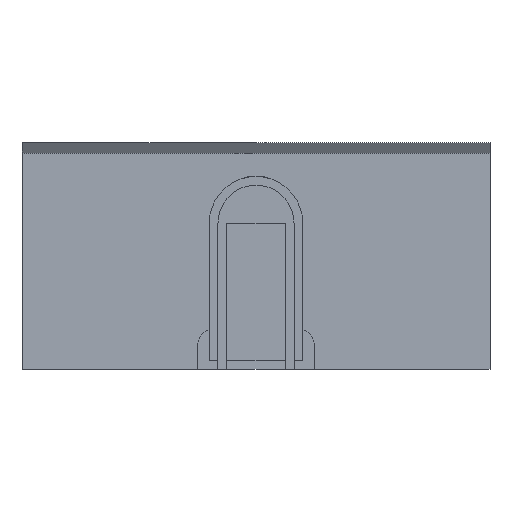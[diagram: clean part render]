
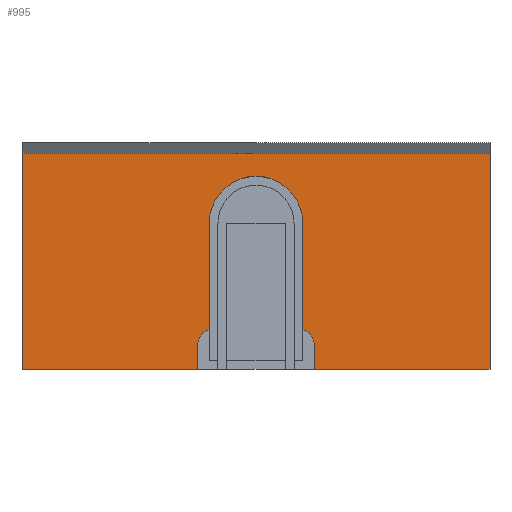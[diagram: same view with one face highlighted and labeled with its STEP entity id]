
A CAD part, front view. The second image highlights one B-rep face of the part: STEP entity #995.
In plain terms, the highlighted planar face has unit normal (0, -1, 0).
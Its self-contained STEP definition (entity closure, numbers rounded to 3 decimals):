
#36 = CARTESIAN_POINT ( 'NONE',  ( -400., 0., 370. ) ) ;
#51 = ORIENTED_EDGE ( 'NONE', *, *, #1398, .F. ) ;
#76 = CARTESIAN_POINT ( 'NONE',  ( -100., 0., 0. ) ) ;
#79 = EDGE_CURVE ( 'NONE', #2997, #2473, #2009, .T. ) ;
#106 = CIRCLE ( 'NONE', #1806, 30. ) ;
#114 = VECTOR ( 'NONE', #1103, 1000. ) ;
#118 = CARTESIAN_POINT ( 'NONE',  ( 100., 0., 0. ) ) ;
#143 = EDGE_CURVE ( 'NONE', #336, #1889, #2741, .T. ) ;
#162 = AXIS2_PLACEMENT_3D ( 'NONE', #357, #2381, #2690 ) ;
#201 = DIRECTION ( 'NONE',  ( 0., 0., -1. ) ) ;
#207 = ORIENTED_EDGE ( 'NONE', *, *, #2709, .F. ) ;
#220 = EDGE_CURVE ( 'NONE', #288, #1647, #1983, .T. ) ;
#222 = CARTESIAN_POINT ( 'NONE',  ( 10., 0., 100. ) ) ;
#236 = LINE ( 'NONE', #266, #488 ) ;
#238 = CARTESIAN_POINT ( 'NONE',  ( 40., 0., 130. ) ) ;
#266 = CARTESIAN_POINT ( 'NONE',  ( 400., 0., 0. ) ) ;
#281 = VECTOR ( 'NONE', #201, 1000. ) ;
#288 = VERTEX_POINT ( 'NONE', #3062 ) ;
#302 = EDGE_CURVE ( 'NONE', #1889, #2672, #236, .T. ) ;
#319 = CARTESIAN_POINT ( 'NONE',  ( 0., 0., 0. ) ) ;
#330 = VECTOR ( 'NONE', #2056, 1000. ) ;
#336 = VERTEX_POINT ( 'NONE', #36 ) ;
#341 = DIRECTION ( 'NONE',  ( 0., 1., 0. ) ) ;
#345 = ORIENTED_EDGE ( 'NONE', *, *, #2022, .T. ) ;
#349 = CARTESIAN_POINT ( 'NONE',  ( -400., 0., 0. ) ) ;
#357 = CARTESIAN_POINT ( 'NONE',  ( -10., 0., 300. ) ) ;
#409 = DIRECTION ( 'NONE',  ( 0., 1., 0. ) ) ;
#417 = VECTOR ( 'NONE', #1080, 1000. ) ;
#438 = CARTESIAN_POINT ( 'NONE',  ( 70., 0., 70. ) ) ;
#452 = CARTESIAN_POINT ( 'NONE',  ( 10., 0., 130. ) ) ;
#468 = LINE ( 'NONE', #1494, #281 ) ;
#488 = VECTOR ( 'NONE', #2794, 1000. ) ;
#593 = AXIS2_PLACEMENT_3D ( 'NONE', #452, #409, #1455 ) ;
#597 = VECTOR ( 'NONE', #2571, 1000. ) ;
#620 = CARTESIAN_POINT ( 'NONE',  ( -10., 0., 130. ) ) ;
#632 = LINE ( 'NONE', #349, #114 ) ;
#658 = DIRECTION ( 'NONE',  ( 0., 1., 0. ) ) ;
#672 = ORIENTED_EDGE ( 'NONE', *, *, #3026, .F. ) ;
#683 = EDGE_CURVE ( 'NONE', #1323, #1045, #1483, .T. ) ;
#693 = CIRCLE ( 'NONE', #1956, 30. ) ;
#731 = ORIENTED_EDGE ( 'NONE', *, *, #2987, .F. ) ;
#799 = LINE ( 'NONE', #1814, #417 ) ;
#873 = ORIENTED_EDGE ( 'NONE', *, *, #1250, .T. ) ;
#898 = AXIS2_PLACEMENT_3D ( 'NONE', #319, #1545, #1573 ) ;
#951 = VERTEX_POINT ( 'NONE', #2618 ) ;
#978 = ORIENTED_EDGE ( 'NONE', *, *, #220, .T. ) ;
#995 = ADVANCED_FACE ( 'NONE', ( #1346, #3127 ), #2610, .F. ) ;
#1005 = CARTESIAN_POINT ( 'NONE',  ( -40., 0., 330. ) ) ;
#1036 = CARTESIAN_POINT ( 'NONE',  ( 400., 0., 0. ) ) ;
#1045 = VERTEX_POINT ( 'NONE', #1828 ) ;
#1048 = LINE ( 'NONE', #2103, #330 ) ;
#1080 = DIRECTION ( 'NONE',  ( 0., 0., 1. ) ) ;
#1087 = EDGE_CURVE ( 'NONE', #2997, #1722, #799, .T. ) ;
#1103 = DIRECTION ( 'NONE',  ( -1., 0., 0. ) ) ;
#1167 = VERTEX_POINT ( 'NONE', #1405 ) ;
#1186 = DIRECTION ( 'NONE',  ( 1., 0., 0. ) ) ;
#1250 = EDGE_CURVE ( 'NONE', #1544, #1045, #1688, .T. ) ;
#1258 = ORIENTED_EDGE ( 'NONE', *, *, #1599, .T. ) ;
#1323 = VERTEX_POINT ( 'NONE', #2413 ) ;
#1331 = CARTESIAN_POINT ( 'NONE',  ( 70., 0., 40. ) ) ;
#1345 = ORIENTED_EDGE ( 'NONE', *, *, #3274, .F. ) ;
#1346 = FACE_BOUND ( 'NONE', #2774, .T. ) ;
#1351 = ORIENTED_EDGE ( 'NONE', *, *, #79, .T. ) ;
#1361 = DIRECTION ( 'NONE',  ( 0., 0., 1. ) ) ;
#1374 = VECTOR ( 'NONE', #1186, 1000. ) ;
#1396 = CARTESIAN_POINT ( 'NONE',  ( -400., 0., 370. ) ) ;
#1398 = EDGE_CURVE ( 'NONE', #2527, #2473, #1938, .T. ) ;
#1405 = CARTESIAN_POINT ( 'NONE',  ( -100., 0., 0. ) ) ;
#1455 = DIRECTION ( 'NONE',  ( 0., 0., 1. ) ) ;
#1459 = CARTESIAN_POINT ( 'NONE',  ( 40., 0., 300. ) ) ;
#1464 = VERTEX_POINT ( 'NONE', #2816 ) ;
#1483 = LINE ( 'NONE', #1005, #2442 ) ;
#1494 = CARTESIAN_POINT ( 'NONE',  ( -40., 0., 100. ) ) ;
#1525 = VERTEX_POINT ( 'NONE', #1748 ) ;
#1544 = VERTEX_POINT ( 'NONE', #3069 ) ;
#1545 = DIRECTION ( 'NONE',  ( 0., 1., 0. ) ) ;
#1547 = CARTESIAN_POINT ( 'NONE',  ( 100., 0., 70. ) ) ;
#1573 = DIRECTION ( 'NONE',  ( 0., 0., 1. ) ) ;
#1579 = EDGE_CURVE ( 'NONE', #1835, #288, #693, .T. ) ;
#1599 = EDGE_CURVE ( 'NONE', #1167, #3238, #2839, .T. ) ;
#1622 = CARTESIAN_POINT ( 'NONE',  ( -70., 0., 40. ) ) ;
#1647 = VERTEX_POINT ( 'NONE', #118 ) ;
#1685 = DIRECTION ( 'NONE',  ( 0., 1., 0. ) ) ;
#1688 = CIRCLE ( 'NONE', #162, 30. ) ;
#1692 = CARTESIAN_POINT ( 'NONE',  ( -40., 0., 100. ) ) ;
#1706 = ORIENTED_EDGE ( 'NONE', *, *, #683, .F. ) ;
#1722 = VERTEX_POINT ( 'NONE', #1459 ) ;
#1725 = EDGE_LOOP ( 'NONE', ( #1258, #2343, #2460, #1921, #978, #731, #2458, #2186, #207, #1345 ) ) ;
#1748 = CARTESIAN_POINT ( 'NONE',  ( -70., 0., 70. ) ) ;
#1749 = VECTOR ( 'NONE', #1361, 1000. ) ;
#1753 = DIRECTION ( 'NONE',  ( -1., 0., 0. ) ) ;
#1764 = CARTESIAN_POINT ( 'NONE',  ( -400., 0., 0. ) ) ;
#1776 = DIRECTION ( 'NONE',  ( 0., 0., -1. ) ) ;
#1806 = AXIS2_PLACEMENT_3D ( 'NONE', #620, #2158, #2384 ) ;
#1810 = AXIS2_PLACEMENT_3D ( 'NONE', #1622, #1685, #2639 ) ;
#1814 = CARTESIAN_POINT ( 'NONE',  ( 40., 0., 100. ) ) ;
#1828 = CARTESIAN_POINT ( 'NONE',  ( -10., 0., 330. ) ) ;
#1835 = VERTEX_POINT ( 'NONE', #438 ) ;
#1842 = DIRECTION ( 'NONE',  ( 0., 0., 1. ) ) ;
#1862 = VECTOR ( 'NONE', #2277, 1000. ) ;
#1889 = VERTEX_POINT ( 'NONE', #3054 ) ;
#1912 = EDGE_CURVE ( 'NONE', #1525, #1835, #3066, .T. ) ;
#1921 = ORIENTED_EDGE ( 'NONE', *, *, #1579, .T. ) ;
#1938 = LINE ( 'NONE', #1692, #2601 ) ;
#1956 = AXIS2_PLACEMENT_3D ( 'NONE', #1331, #341, #1842 ) ;
#1983 = LINE ( 'NONE', #2019, #2650 ) ;
#2009 = CIRCLE ( 'NONE', #593, 30. ) ;
#2019 = CARTESIAN_POINT ( 'NONE',  ( 100., 0., 0. ) ) ;
#2022 = EDGE_CURVE ( 'NONE', #2527, #951, #106, .T. ) ;
#2029 = CARTESIAN_POINT ( 'NONE',  ( -10., 0., 100. ) ) ;
#2056 = DIRECTION ( 'NONE',  ( 0., 0., 1. ) ) ;
#2103 = CARTESIAN_POINT ( 'NONE',  ( -400., 0., 0. ) ) ;
#2123 = AXIS2_PLACEMENT_3D ( 'NONE', #2937, #658, #3169 ) ;
#2158 = DIRECTION ( 'NONE',  ( 0., 1., 0. ) ) ;
#2186 = ORIENTED_EDGE ( 'NONE', *, *, #143, .F. ) ;
#2277 = DIRECTION ( 'NONE',  ( -1., 0., 0. ) ) ;
#2343 = ORIENTED_EDGE ( 'NONE', *, *, #2830, .T. ) ;
#2381 = DIRECTION ( 'NONE',  ( 0., 1., 0. ) ) ;
#2384 = DIRECTION ( 'NONE',  ( 0., 0., 1. ) ) ;
#2413 = CARTESIAN_POINT ( 'NONE',  ( 10., 0., 330. ) ) ;
#2442 = VECTOR ( 'NONE', #1753, 1000. ) ;
#2458 = ORIENTED_EDGE ( 'NONE', *, *, #302, .F. ) ;
#2460 = ORIENTED_EDGE ( 'NONE', *, *, #1912, .T. ) ;
#2473 = VERTEX_POINT ( 'NONE', #222 ) ;
#2482 = DIRECTION ( 'NONE',  ( 1., 0., 0. ) ) ;
#2493 = LINE ( 'NONE', #1764, #1862 ) ;
#2504 = ORIENTED_EDGE ( 'NONE', *, *, #1087, .F. ) ;
#2527 = VERTEX_POINT ( 'NONE', #2029 ) ;
#2542 = EDGE_CURVE ( 'NONE', #1323, #1722, #2705, .T. ) ;
#2571 = DIRECTION ( 'NONE',  ( 1., 0., 0. ) ) ;
#2601 = VECTOR ( 'NONE', #2482, 1000. ) ;
#2610 = PLANE ( 'NONE',  #898 ) ;
#2618 = CARTESIAN_POINT ( 'NONE',  ( -40., 0., 130. ) ) ;
#2639 = DIRECTION ( 'NONE',  ( 0., 0., 1. ) ) ;
#2650 = VECTOR ( 'NONE', #1776, 1000. ) ;
#2672 = VERTEX_POINT ( 'NONE', #1036 ) ;
#2690 = DIRECTION ( 'NONE',  ( 0., 0., 1. ) ) ;
#2705 = CIRCLE ( 'NONE', #2123, 30. ) ;
#2709 = EDGE_CURVE ( 'NONE', #1464, #336, #1048, .T. ) ;
#2741 = LINE ( 'NONE', #1396, #1374 ) ;
#2774 = EDGE_LOOP ( 'NONE', ( #51, #345, #672, #873, #1706, #3211, #2504, #1351 ) ) ;
#2794 = DIRECTION ( 'NONE',  ( 0., 0., -1. ) ) ;
#2816 = CARTESIAN_POINT ( 'NONE',  ( -400., 0., 0. ) ) ;
#2830 = EDGE_CURVE ( 'NONE', #3238, #1525, #3251, .T. ) ;
#2839 = LINE ( 'NONE', #76, #1749 ) ;
#2937 = CARTESIAN_POINT ( 'NONE',  ( 10., 0., 300. ) ) ;
#2987 = EDGE_CURVE ( 'NONE', #2672, #1647, #2493, .T. ) ;
#2997 = VERTEX_POINT ( 'NONE', #238 ) ;
#3026 = EDGE_CURVE ( 'NONE', #1544, #951, #468, .T. ) ;
#3054 = CARTESIAN_POINT ( 'NONE',  ( 400., 0., 370. ) ) ;
#3062 = CARTESIAN_POINT ( 'NONE',  ( 100., 0., 40. ) ) ;
#3066 = LINE ( 'NONE', #1547, #597 ) ;
#3069 = CARTESIAN_POINT ( 'NONE',  ( -40., 0., 300. ) ) ;
#3125 = CARTESIAN_POINT ( 'NONE',  ( -100., 0., 40. ) ) ;
#3127 = FACE_OUTER_BOUND ( 'NONE', #1725, .T. ) ;
#3169 = DIRECTION ( 'NONE',  ( 0., 0., 1. ) ) ;
#3211 = ORIENTED_EDGE ( 'NONE', *, *, #2542, .T. ) ;
#3238 = VERTEX_POINT ( 'NONE', #3125 ) ;
#3251 = CIRCLE ( 'NONE', #1810, 30. ) ;
#3274 = EDGE_CURVE ( 'NONE', #1167, #1464, #632, .T. ) ;
